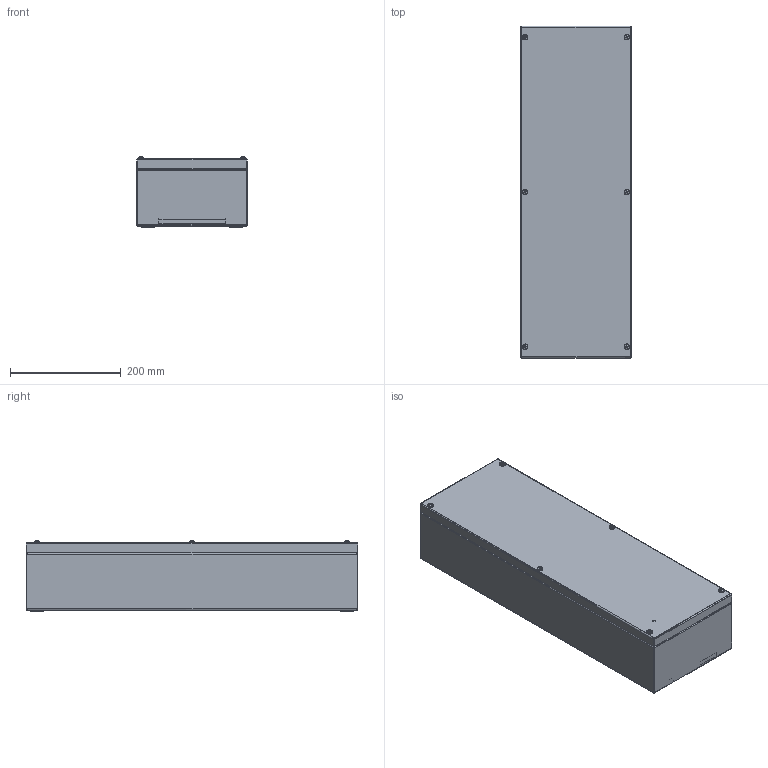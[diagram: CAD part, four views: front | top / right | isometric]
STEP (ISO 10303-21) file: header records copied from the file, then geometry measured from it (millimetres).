
FILE_DESCRIPTION (( 'STEP AP203' ), '1' );
FILE_NAME ('SS JB-600 x 200 x 121-ASSEMBLY.STEP', '2020-03-13T11:34:33', ( '' ), ( '' ), 'SwSTEP 2.0', 'SolidWorks 2018', '' );
FILE_SCHEMA (( 'CONFIG_CONTROL_DESIGN' ));
Length unit declared in the file: millimetre
Products named in the file (7): PLASTIC INSERT FOR FABRICATED ENCLOSURE; SS JB-600 x 200 x 121-BASE_600 x 200 x 121; SS JB-600 x 200 x 121-ASSEMBLY; SS JB-600 x 200 x 121-LID_600 x 200 x 121; M5 BLIND NUTSERT; Dinral Mounting Channel-200; M5X33 LID SCREW
Assembly tree (22 placements, depth 2):
  SS JB-600 x 200 x 121-ASSEMBLY
    SS JB-600 x 200 x 121-BASE_600 x 200 x 121
    SS JB-600 x 200 x 121-LID_600 x 200 x 121
    Dinral Mounting Channel-200  x2
    M5X33 LID SCREW  x6
    PLASTIC INSERT FOR FABRICATED ENCLOSURE  x6
    M5 BLIND NUTSERT  x6
Bounding box: 200 x 600 x 127.66 mm (x, y, z)
Volume: 732653.3 mm3; surface area: 979845.2 mm2
Topology: 22 solids, 22 shells, 935 faces, 2262 edges, 1416 vertices
Faces by surface type: cylinder 414, plane 317, cone 156, bspline 36, sphere 12
Entity records: 16189 total; most frequent: CARTESIAN_POINT 5140, ORIENTED_EDGE 2112, DIRECTION 1911, EDGE_CURVE 1056, AXIS2_PLACEMENT_3D 660, VERTEX_POINT 642, LINE 591, VECTOR 591
